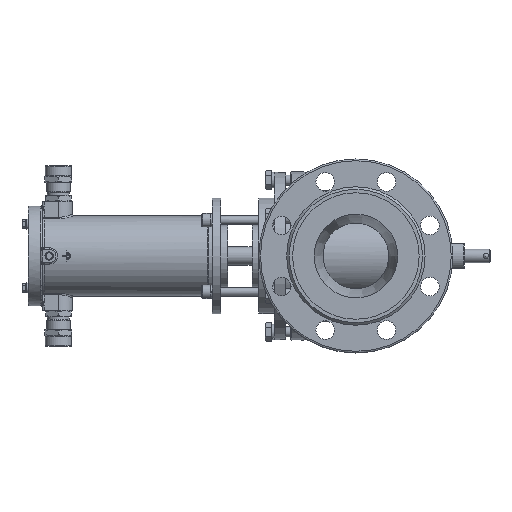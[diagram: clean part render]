
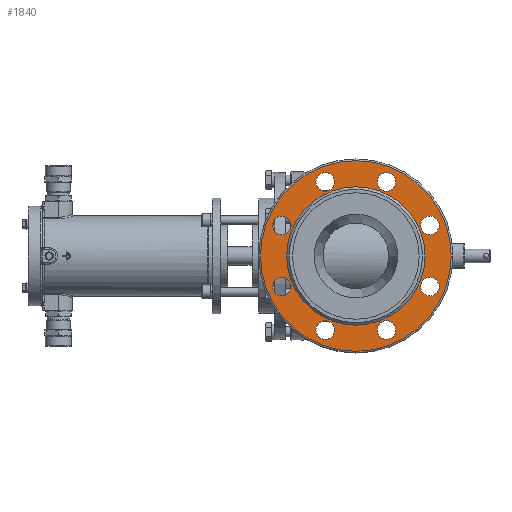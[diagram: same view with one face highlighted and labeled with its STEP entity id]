
A CAD part, left-side view. The second image highlights one B-rep face of the part: STEP entity #1840.
In plain terms, the highlighted planar face has unit normal (-1, 0, 0).
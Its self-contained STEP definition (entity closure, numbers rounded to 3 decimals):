
#1840=ADVANCED_FACE('',(#21285,#21287,#21289,#21291,#21293,#21295,#21297,#21299,
#21301,#21303),#21305,.T.);
#21285=FACE_BOUND('',#21286,.T.);
#21286=EDGE_LOOP('',(#32909));
#21287=FACE_BOUND('',#21288,.T.);
#21288=EDGE_LOOP('',(#32910));
#21289=FACE_BOUND('',#21290,.T.);
#21290=EDGE_LOOP('',(#32911));
#21291=FACE_BOUND('',#21292,.T.);
#21292=EDGE_LOOP('',(#32912));
#21293=FACE_BOUND('',#21294,.T.);
#21294=EDGE_LOOP('',(#32913));
#21295=FACE_BOUND('',#21296,.T.);
#21296=EDGE_LOOP('',(#32914));
#21297=FACE_BOUND('',#21298,.T.);
#21298=EDGE_LOOP('',(#32915));
#21299=FACE_BOUND('',#21300,.T.);
#21300=EDGE_LOOP('',(#32916));
#21301=FACE_BOUND('',#21302,.T.);
#21302=EDGE_LOOP('',(#32917));
#21303=FACE_OUTER_BOUND('',#21304,.T.);
#21304=EDGE_LOOP('',(#32918));
#21305=PLANE('',#21306);
#21306=AXIS2_PLACEMENT_3D('',#21307,#21308,#21309);
#21307=CARTESIAN_POINT('',(-151.,0.,0.));
#21308=DIRECTION('',(-1.,0.,0.));
#21309=DIRECTION('',(0.,1.,0.));
#32909=ORIENTED_EDGE('',*,*,#41506,.F.);
#32910=ORIENTED_EDGE('',*,*,#40993,.T.);
#32911=ORIENTED_EDGE('',*,*,#40991,.T.);
#32912=ORIENTED_EDGE('',*,*,#40989,.T.);
#32913=ORIENTED_EDGE('',*,*,#40987,.T.);
#32914=ORIENTED_EDGE('',*,*,#40985,.T.);
#32915=ORIENTED_EDGE('',*,*,#40983,.T.);
#32916=ORIENTED_EDGE('',*,*,#40981,.T.);
#32917=ORIENTED_EDGE('',*,*,#40979,.T.);
#32918=ORIENTED_EDGE('',*,*,#41507,.T.);
#40979=EDGE_CURVE('',#49092,#49092,#49094,.F.);
#40981=EDGE_CURVE('',#49095,#49095,#49097,.F.);
#40983=EDGE_CURVE('',#49098,#49098,#49100,.F.);
#40985=EDGE_CURVE('',#49101,#49101,#49103,.F.);
#40987=EDGE_CURVE('',#49104,#49104,#49106,.F.);
#40989=EDGE_CURVE('',#49107,#49107,#49109,.F.);
#40991=EDGE_CURVE('',#49110,#49110,#49112,.F.);
#40993=EDGE_CURVE('',#49113,#49113,#49115,.F.);
#41506=EDGE_CURVE('',#49897,#49897,#49898,.T.);
#41507=EDGE_CURVE('',#49899,#49899,#49900,.T.);
#49092=VERTEX_POINT('',#75936);
#49094=CIRCLE('',#75940,11.);
#49095=VERTEX_POINT('',#75944);
#49097=CIRCLE('',#75948,11.);
#49098=VERTEX_POINT('',#75952);
#49100=CIRCLE('',#75956,11.);
#49101=VERTEX_POINT('',#75960);
#49103=CIRCLE('',#75964,11.);
#49104=VERTEX_POINT('',#75968);
#49106=CIRCLE('',#75972,11.);
#49107=VERTEX_POINT('',#75976);
#49109=CIRCLE('',#75980,11.);
#49110=VERTEX_POINT('',#75984);
#49112=CIRCLE('',#75988,11.);
#49113=VERTEX_POINT('',#75992);
#49115=CIRCLE('',#75996,11.);
#49897=VERTEX_POINT('',#78168);
#49898=CIRCLE('',#78169,82.);
#49899=VERTEX_POINT('',#78173);
#49900=CIRCLE('',#78174,113.);
#75936=CARTESIAN_POINT('',(-151.,87.769,25.355));
#75940=AXIS2_PLACEMENT_3D('',#75941,#75942,#75943);
#75941=CARTESIAN_POINT('',(-151.,87.769,36.355));
#75942=DIRECTION('',(-1.,0.,0.));
#75943=DIRECTION('',(0.,0.,-1.));
#75944=CARTESIAN_POINT('',(-151.,87.769,-47.355));
#75948=AXIS2_PLACEMENT_3D('',#75949,#75950,#75951);
#75949=CARTESIAN_POINT('',(-151.,87.769,-36.355));
#75950=DIRECTION('',(-1.,0.,0.));
#75951=DIRECTION('',(0.,0.,-1.));
#75952=CARTESIAN_POINT('',(-151.,36.355,-98.769));
#75956=AXIS2_PLACEMENT_3D('',#75957,#75958,#75959);
#75957=CARTESIAN_POINT('',(-151.,36.355,-87.769));
#75958=DIRECTION('',(-1.,0.,0.));
#75959=DIRECTION('',(0.,0.,-1.));
#75960=CARTESIAN_POINT('',(-151.,36.355,76.769));
#75964=AXIS2_PLACEMENT_3D('',#75965,#75966,#75967);
#75965=CARTESIAN_POINT('',(-151.,36.355,87.769));
#75966=DIRECTION('',(-1.,0.,0.));
#75967=DIRECTION('',(0.,0.,-1.));
#75968=CARTESIAN_POINT('',(-151.,-87.769,25.355));
#75972=AXIS2_PLACEMENT_3D('',#75973,#75974,#75975);
#75973=CARTESIAN_POINT('',(-151.,-87.769,36.355));
#75974=DIRECTION('',(-1.,0.,0.));
#75975=DIRECTION('',(0.,0.,-1.));
#75976=CARTESIAN_POINT('',(-151.,-87.769,-47.355));
#75980=AXIS2_PLACEMENT_3D('',#75981,#75982,#75983);
#75981=CARTESIAN_POINT('',(-151.,-87.769,-36.355));
#75982=DIRECTION('',(-1.,0.,0.));
#75983=DIRECTION('',(0.,0.,-1.));
#75984=CARTESIAN_POINT('',(-151.,-36.355,-98.769));
#75988=AXIS2_PLACEMENT_3D('',#75989,#75990,#75991);
#75989=CARTESIAN_POINT('',(-151.,-36.355,-87.769));
#75990=DIRECTION('',(-1.,0.,0.));
#75991=DIRECTION('',(0.,0.,-1.));
#75992=CARTESIAN_POINT('',(-151.,-36.355,76.769));
#75996=AXIS2_PLACEMENT_3D('',#75997,#75998,#75999);
#75997=CARTESIAN_POINT('',(-151.,-36.355,87.769));
#75998=DIRECTION('',(-1.,0.,0.));
#75999=DIRECTION('',(0.,0.,-1.));
#78168=CARTESIAN_POINT('',(-151.,82.,0.));
#78169=AXIS2_PLACEMENT_3D('',#78170,#78171,#78172);
#78170=CARTESIAN_POINT('',(-151.,0.,0.));
#78171=DIRECTION('',(-1.,0.,0.));
#78172=DIRECTION('',(0.,1.,0.));
#78173=CARTESIAN_POINT('',(-151.,113.,0.));
#78174=AXIS2_PLACEMENT_3D('',#78175,#78176,#78177);
#78175=CARTESIAN_POINT('',(-151.,0.,0.));
#78176=DIRECTION('',(-1.,0.,0.));
#78177=DIRECTION('',(0.,1.,0.));
